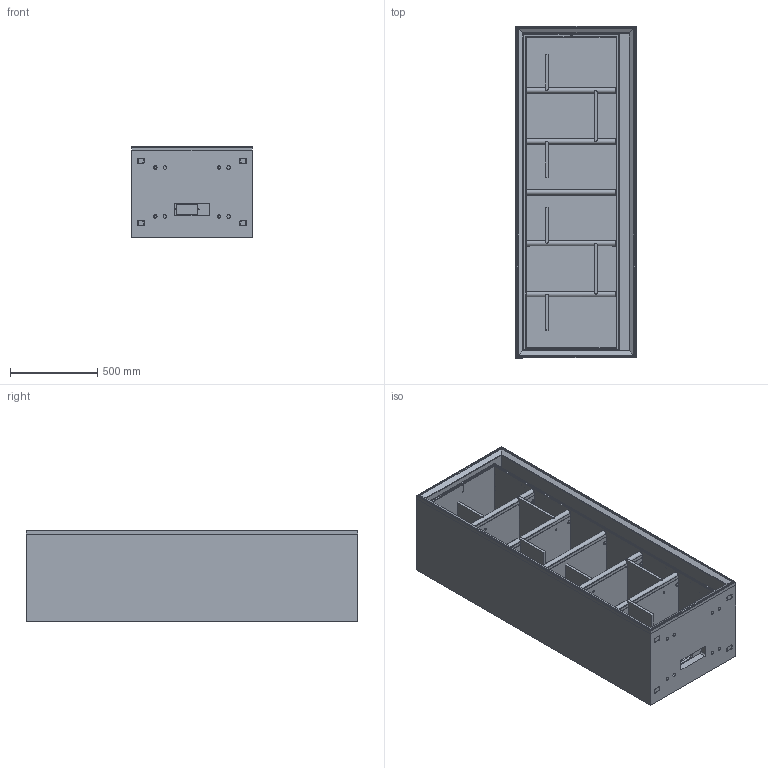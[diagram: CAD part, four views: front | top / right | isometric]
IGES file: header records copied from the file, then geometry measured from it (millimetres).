
Global section: file name: 80081; native system: Autodesk Inventor 2014; preprocessor: unknown; author: Robertom; date: 20140526.112518; units: millimetre
Bounding box: 690 x 1900 x 520 mm (x, y, z)
Volume: 206215739.9 mm3; surface area: 20368980.7 mm2
Topology: 63 solids, 63 shells, 1945 faces, 5597 edges, 3816 vertices
Faces by surface type: bspline 1945
